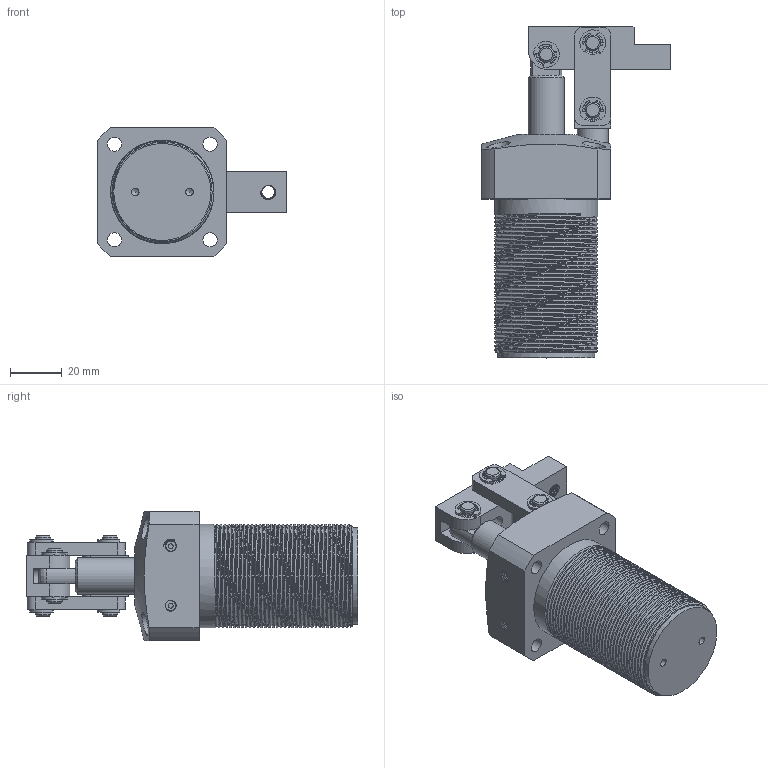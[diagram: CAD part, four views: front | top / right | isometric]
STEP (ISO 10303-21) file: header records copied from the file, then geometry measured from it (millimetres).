
FILE_DESCRIPTION(/* description */ (''),/* implementation_level */ '2;1');
FILE_NAME(/* name */ 'E:\SERWER_ZAPAS\MODELE brakujace\PNEUMATIC\CPLCU(STEP)\cplcu-25_asm\CPLCU-25_ZAMKNIETY.stp',/* time_stamp */ '2019-02-08T13:44:29+01:00',/* author */ ('Admin'),/* organization */ (''),/* preprocessor_version */ 'ST-DEVELOPER v17.2',/* originating_system */ 'Autodesk Inventor 2019',/* authorisation */ '');
FILE_SCHEMA (('AUTOMOTIVE_DESIGN { 1 0 10303 214 3 1 1 }'));
Products named in the file (10): CPLCU-25_ZAMKNIETY; CPLCU-25-07; CPLCU-25-06; CPLCU-25-01; CPLCU-25-05; CPLCU-25-02; CPLCU-25-09; CPLCU-25-03; CPLCU-25-04; LHC01D-32-01
Assembly tree (21 placements, depth 2):
  CPLCU-25_ZAMKNIETY
    CPLCU-25-07
    CPLCU-25-06
    CPLCU-25-01
    CPLCU-25-05
    CPLCU-25-02  x2
    CPLCU-25-09  x6
    CPLCU-25-03
    CPLCU-25-04  x2
    LHC01D-32-01  x6
Bounding box: 73 x 128.51 x 50 mm (x, y, z)
Volume: 139958.4 mm3; surface area: 49314.4 mm2
Topology: 21 solids, 21 shells, 523 faces, 1401 edges, 949 vertices
Faces by surface type: cylinder 256, plane 152, cone 58, bspline 56, torus 1
Full cylindrical faces by diameter (mm): 1.85 x2, 3 x2, 3.6 x3, 4.2 x21, 5 x15, 5.5 x4, 6 x19, 6.75 x11, 8 x16, 9 x4, 12 x2, 14 x2, 17 x1, 20 x2, 24.5 x3, 25 x1, 37.6 x1, 40 x35
Entity records: 37501 total; most frequent: CARTESIAN_POINT 28822, ORIENTED_EDGE 1864, DIRECTION 1506, EDGE_CURVE 932, VERTEX_POINT 634, AXIS2_PLACEMENT_3D 590, EDGE_LOOP 400, FACE_OUTER_BOUND 344
